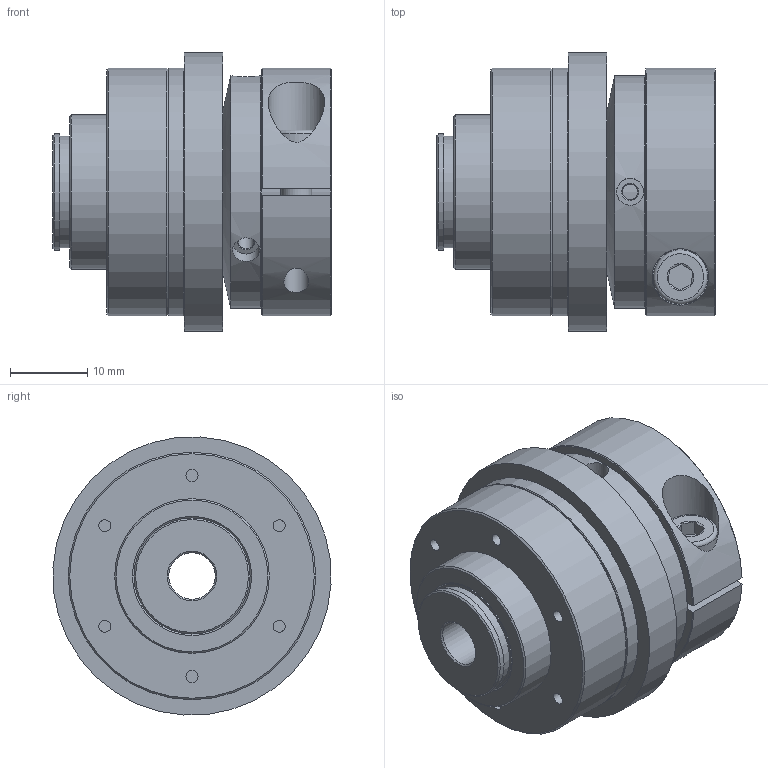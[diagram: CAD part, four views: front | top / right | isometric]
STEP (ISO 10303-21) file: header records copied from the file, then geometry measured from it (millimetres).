
FILE_DESCRIPTION( ( 'Unknown' ), '1' );
FILE_NAME( 'C:/Users/TWalzel/Documents/CAD-Daten/KBK-CK/4,5/KBK CK-4,5.stp', 'Unknown', ( 'Unknown' ), ( 'Unknown' ), 'PSStep 16.0.42', 'Unknown', ' ' );
FILE_SCHEMA( ( 'AUTOMOTIVE_DESIGN { 1 0 10303 214 1 1 1 1 }' ) );
Length unit declared in the file: millimetre
Products named in the file (10): Druckring 4,5; Stellring 4,5; Klemmnabe 4,5; Assem1; Flansch-Gleitlager CK-4,5; ISO EN DIN 4762 M4x12; Grundkörper CK-4,5_1
Assembly tree (9 placements, depth 3):
  Assem1
    Flansch-Gleitlager CK-4,5
    ISO EN DIN 4762 M4x12
    Grundkörper CK-4,5_1
    Klemmnabe 4,5
      Klemmnabe 4,5
    Stellring 4,5
      Stellring 4,5
    Druckring 4,5
      Druckring 4,5
Bounding box: 36 x 35.94 x 35.94 mm (x, y, z)
Volume: 22408.6 mm3; surface area: 14342.3 mm2
Topology: 6 solids, 6 shells, 122 faces, 246 edges, 155 vertices
Faces by surface type: cylinder 44, plane 42, cone 34, torus 2
Full cylindrical faces by diameter (mm): 1.567 x12, 2.013 x3, 3.242 x1, 3.5 x4, 4 x2, 4.2 x1, 6 x1, 7 x1, 7.3 x1, 14.4 x1, 15 x3, 16 x1, 18 x2, 20 x1, 22 x1, 30 x1, 32 x2, 34 x1, 36 x1
Entity records: 4276 total; most frequent: CARTESIAN_POINT 841, DIRECTION 528, ORIENTED_EDGE 326, AXIS2_PLACEMENT_3D 244, EDGE_LOOP 224, FACE_OUTER_BOUND 164, EDGE_CURVE 163, VERTEX_POINT 137
